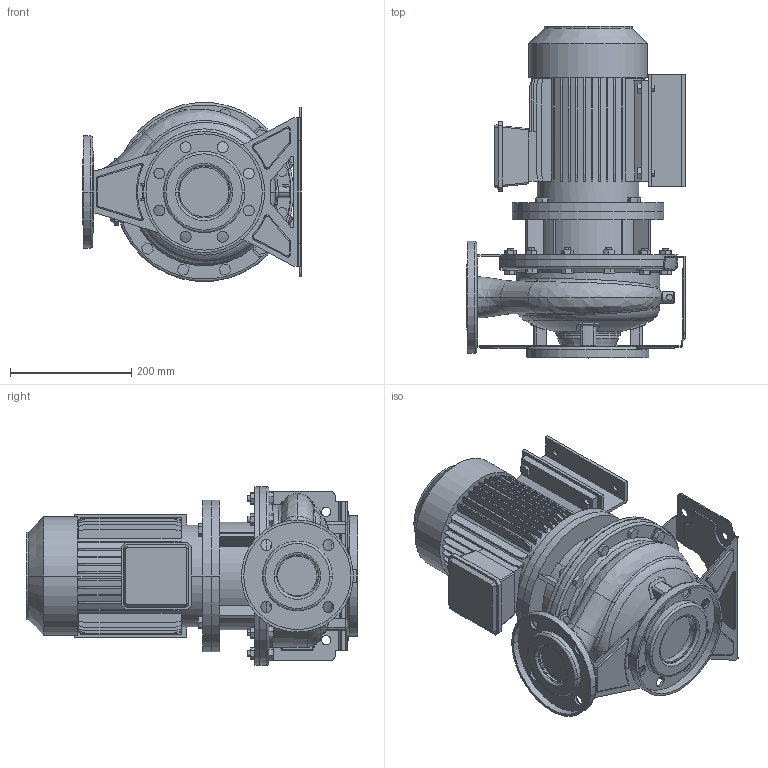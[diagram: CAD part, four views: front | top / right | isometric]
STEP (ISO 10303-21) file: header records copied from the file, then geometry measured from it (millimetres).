
FILE_DESCRIPTION((''),'2;1');
FILE_NAME('3S4_65-160_2_2_IE3_ASM','2016-09-24T',('rosa'),('"Ebara Pumps Europe +39.444.706811"'),'PRO/ENGINEER BY PARAMETRIC TECHNOLOGY CORPORATION, 2012130','PRO/ENGINEER BY PARAMETRIC TECHNOLOGY CORPORATION, 2012130','');
FILE_SCHEMA(('AUTOMOTIVE_DESIGN { 1 0 10303 214 1 1 1 1 }'));
Length unit declared in the file: millimetre
Products named in the file (12): MOTORE_100L_2_2_KW_4POLI_B35; SUPPORTO_3S_230_100_112; SOSTEGNO_72021; CORPO_65-160_AF0; ASP_65-160; FLANGIA_DIN_80_8_FORI; MAND_65-160; FLANGIA_DIN_65; BASE_3M_65-160; CORPO_SALDATO_65-160_ASM; M10X22; 3S4_65-160_2_2_IE3_ASM
Assembly tree (15 placements, depth 3):
  3S4_65-160_2_2_IE3_ASM
    MOTORE_100L_2_2_KW_4POLI_B35
    SUPPORTO_3S_230_100_112
    SOSTEGNO_72021  x2
    CORPO_SALDATO_65-160_ASM
      CORPO_65-160_AF0
      ASP_65-160
      FLANGIA_DIN_80_8_FORI
      MAND_65-160
      FLANGIA_DIN_65
      BASE_3M_65-160
    M10X22  x4
Bounding box: 360 x 548 x 295.13 mm (x, y, z)
Volume: 16310517.9 mm3; surface area: 1610266.5 mm2
Topology: 17 solids, 17 shells, 1253 faces, 3184 edges, 2086 vertices
Faces by surface type: plane 753, cylinder 351, torus 62, cone 48, bspline 33, sphere 6
Entity records: 50372 total; most frequent: CARTESIAN_POINT 9835, DIRECTION 6151, ORIENTED_EDGE 5984, PRESENTATION_STYLE_ASSIGNMENT 3005, STYLED_ITEM 3005, CURVE_STYLE 2992, EDGE_CURVE 2992, AXIS2_PLACEMENT_3D 2095
